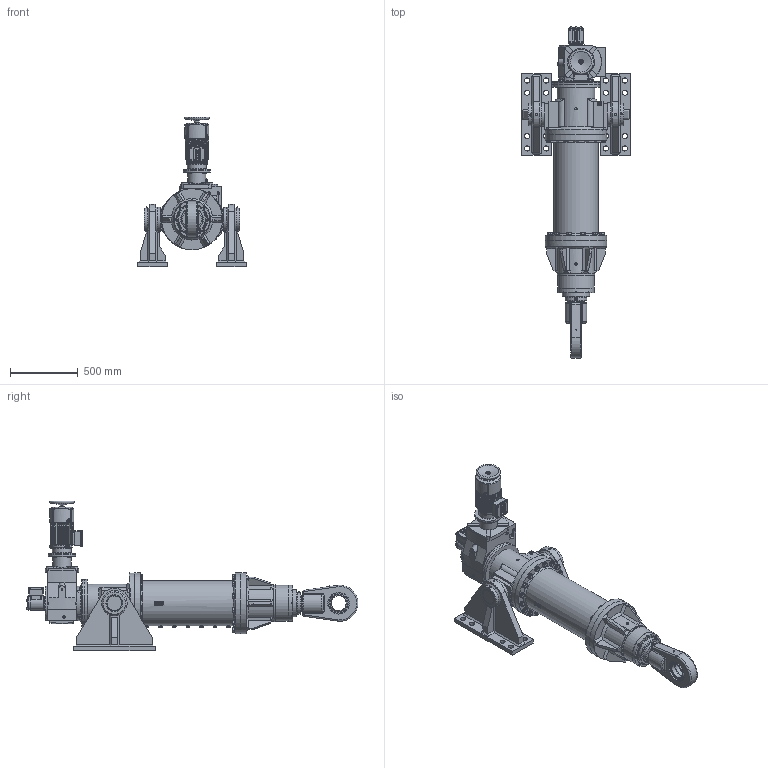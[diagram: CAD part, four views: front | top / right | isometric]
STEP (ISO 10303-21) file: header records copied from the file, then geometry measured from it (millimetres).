
FILE_DESCRIPTION(/* description */ (''),/* implementation_level */ '2;1');
FILE_NAME(/* name */ 'K1T11-0600-160-385-0',/* time_stamp */ '2017-10-10T11:14:21+02:00',/* author */ ('Christoph Hahmann'),/* organization */ ('RACO'),/* preprocessor_version */ 'ST-DEVELOPER v16.7',/* originating_system */ 'DEX',/* authorisation */ $);
FILE_SCHEMA (('AUTOMOTIVE_DESIGN {1 0 10303 214 3 1 1}'));
Products named in the file (19): K1T11-0600-160-385-0; Y11-0600; 03.01-11_kpl; 02.14-11-0600; 02.01-11; Befestigung_12xM24_Schraube_LK400; Befestigung_16xM24_LK400; 01.15-11-0600; 03.65-11_kpl; 01.01-11_kpl_Gelenkkopf; 04.40-11-D350; SK9042-1AF-IEC90; 05.51-10; Gehaeuse_A_ohne_KK; Klemmenkasten_GZ; 90-B5-BR; Lüfterhaube-90-HV; 106-834-2; Klemmenkasten
Assembly tree (18 placements, depth 3):
  K1T11-0600-160-385-0
    Y11-0600
      03.01-11_kpl
      02.14-11-0600
      02.01-11
      Befestigung_12xM24_Schraube_LK400
      Befestigung_16xM24_LK400
      01.15-11-0600
    03.65-11_kpl
    01.01-11_kpl_Gelenkkopf
    04.40-11-D350
    SK9042-1AF-IEC90
    05.51-10
    Gehaeuse_A_ohne_KK
    Klemmenkasten_GZ
    90-B5-BR
    Lüfterhaube-90-HV
    106-834-2
    Klemmenkasten
Bounding box: 800 x 2443 x 1101 mm (x, y, z)
Volume: 219934665.2 mm3; surface area: 7611987.6 mm2
Topology: 44 solids, 84 shells, 4454 faces, 10866 edges, 6952 vertices
Faces by surface type: plane 2634, cylinder 1173, cone 274, bspline 224, torus 107, sphere 42
Full cylindrical faces by diameter (mm): 1 x31, 4.134 x3, 4.3 x4, 4.6 x1, 4.773 x3, 4.917 x1, 5 x9, 5.3 x12, 6 x9, 6.1 x3, 7 x4, 7.5 x3, 8 x4, 9.1 x3, 10 x24, 12.79 x3, 12.8 x3, 13 x8, 13.835 x2, 14 x8, 15.5 x9, 16 x2, 17 x9, 18 x6, 18.1 x1, 19 x9, 20 x8, 22 x1, 24 x7, 25 x5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
Entity records: 161331 total; most frequent: CARTESIAN_POINT 32940, DIRECTION 20391, ORIENTED_EDGE 20070, EDGE_CURVE 10035, AXIS2_PLACEMENT_3D 7323, VERTEX_POINT 6728, LINE 5745, VECTOR 5745
